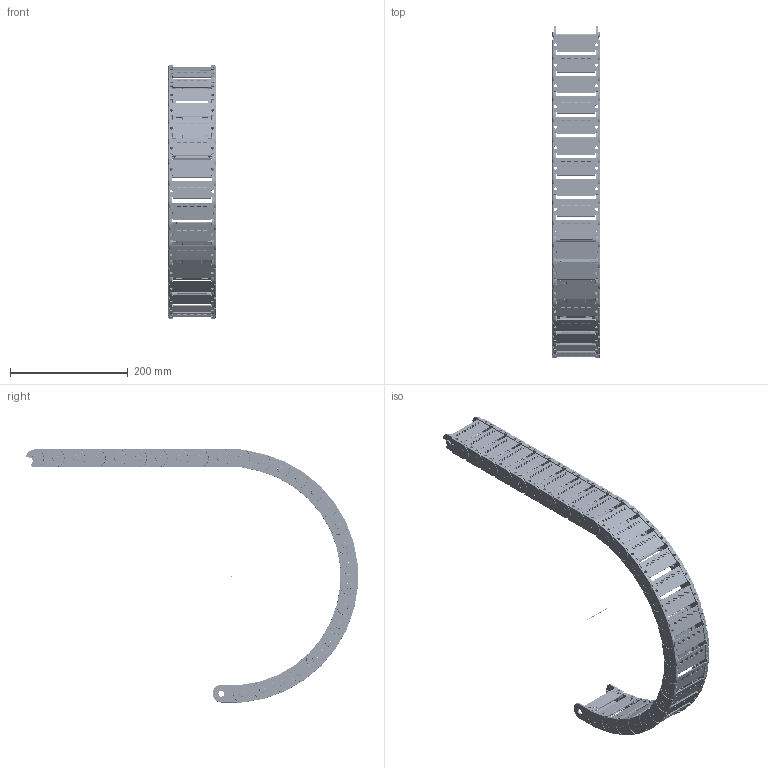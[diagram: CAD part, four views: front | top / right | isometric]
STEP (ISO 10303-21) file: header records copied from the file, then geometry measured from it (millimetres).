
FILE_DESCRIPTION((''),'2;1');
FILE_NAME('C:\Uebbing\PARAMETERKETTEN\KOLIBRI\Kol_30_080_2\Kol_30_080_2_R200.stp','2012-03-05T11:13:13',('Uebbing'),(''),'Autodesk Inventor 10','Autodesk Inventor 10','');
FILE_SCHEMA(('AUTOMOTIVE_DESIGN { 1 0 10303 214 1 1 1 1 }'));
Length unit declared in the file: millimetre
Products named in the file (5): KOLIBRI 30_080_2_PARAMETRISCH; Achse; Kol_30_080_2_Glied; Kol 30_080_2_ Lasche; Kol 30_080_0 Klappsteg
Assembly tree (31 placements, depth 3):
  KOLIBRI 30_080_2_PARAMETRISCH
    Achse
    Kol_30_080_2_Glied  x28
      Kol 30_080_2_ Lasche
      Kol 30_080_0 Klappsteg
Bounding box: 80 x 563.76 x 430 mm (x, y, z)
Volume: 616288.3 mm3; surface area: 500875.8 mm2
Topology: 57 solids, 57 shells, 26911 faces, 73000 edges, 47995 vertices
Faces by surface type: plane 13722, bspline 7532, cylinder 5097, torus 364, cone 112, sphere 84
Full cylindrical faces by diameter (mm): 1 x1, 1.166 x28, 2.048 x28, 2.8 x168, 5.1 x28, 10 x28, 10.1 x28
Entity records: 33485 total; most frequent: CARTESIAN_POINT 10121, ORIENTED_EDGE 5136, DIRECTION 4209, EDGE_CURVE 2568, VERTEX_POINT 1703, VECTOR 1693, LINE 1693, AXIS2_PLACEMENT_3D 1258
